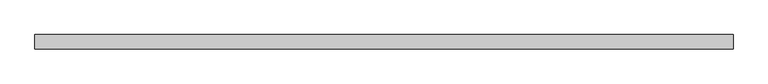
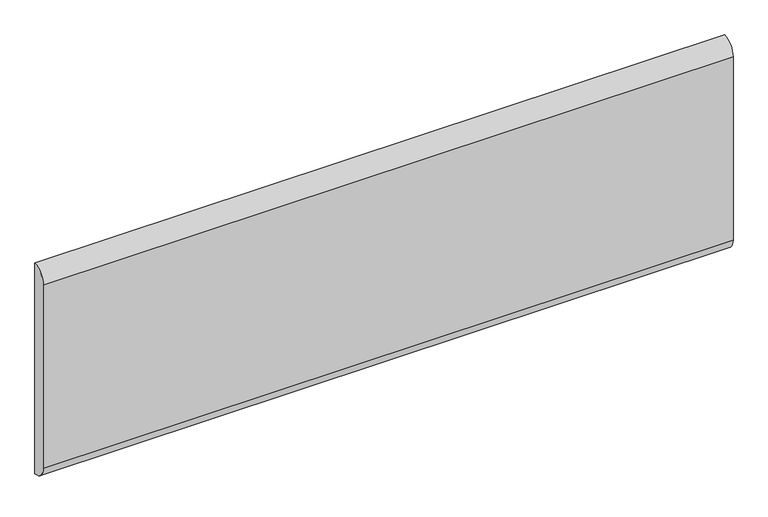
"""IFC4 building model written with IfcOpenShell, lengths in millimetres: furniture geometry."""

from ifc_helpers import new_model, si_unit, point, frame, frame_2d, origin, place, context, project, spatial, polyline, circle_curve, trimmed, segment, composite_curve, outline, extrude, source, transform, mapped, element, save


def furniture_e09989cd(model_context):
    return source(origin(), model_context, "Body", "SweptSolid", [
        extrude(outline(composite_curve([segment(trimmed(circle_curve(frame_2d((12.7, 1016.0)), 25.4), [point((12.7, 990.6))], [point((-12.7, 1016.0))], False, "CARTESIAN"), True, "CONTINUOUS"), segment(polyline([(-12.7, 1016.0), (-12.7, 1358.9)]), True, "CONTINUOUS"), segment(trimmed(circle_curve(frame_2d((12.7, 1358.9)), 25.4), [point((-12.7, 1358.9))], [point((12.7, 1384.3))], False, "CARTESIAN"), True, "CONTINUOUS"), segment(polyline([(12.7, 1384.3), (12.7, 990.6)]), True, "CONTINUOUS")], self_intersect=False)), frame((-609.6, 0.0, 0.0), z_axis=(1.0, 0.0, 0.0), x_axis=(0.0, 1.0, 0.0)), (0.0, 0.0, 1.0), 1219.2),
    ])


if __name__ == "__main__":
    model = new_model("IFC4")
    model_context = context("Model", 3, world=origin())
    ifc_project = project(units=[si_unit("LENGTHUNIT", "METRE", prefix="MILLI")], contexts=[model_context])
    site = spatial("IfcSite", under=ifc_project)
    building = spatial("IfcBuilding", under=site)
    placement = place(None, origin())
    furniture_shape = furniture_e09989cd(model_context)
    element("IfcFurniture", 1, ObjectType="HermanMiller_ActionOffice_A3410_B-StyleTackboard : 16\"H x 48\"W", at=placement, inside=building, context=model_context, shape_type="MappedRepresentation", body=[
        mapped(furniture_shape, transform((0.0, 0.0, 0.0), x_axis=(1.0, 0.0, 0.0), y_axis=(0.0, 1.0, 0.0), z_axis=(0.0, 0.0, 1.0))),
    ])
    save(model, "model.ifc")
